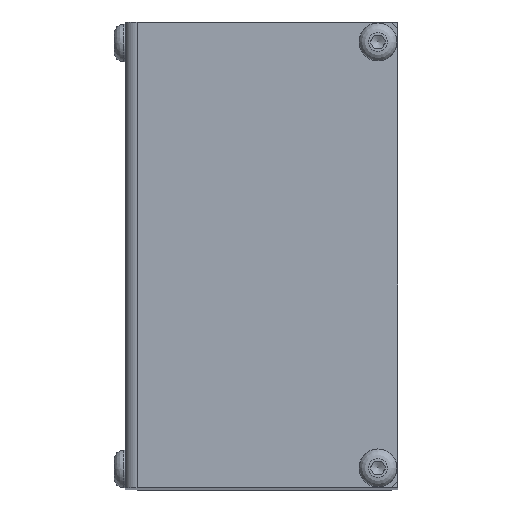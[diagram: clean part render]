
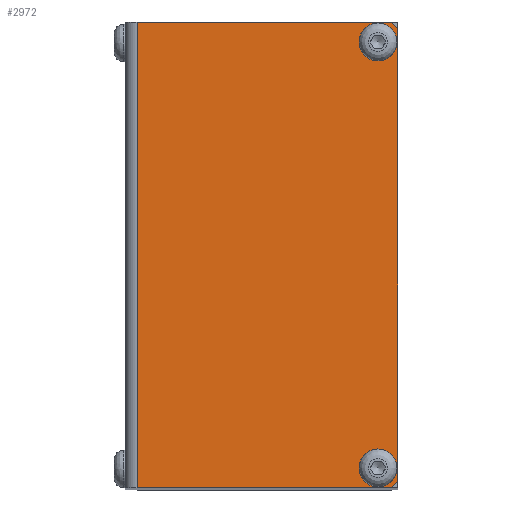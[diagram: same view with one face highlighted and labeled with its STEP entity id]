
A CAD part, top view. The second image highlights one B-rep face of the part: STEP entity #2972.
In plain terms, the highlighted planar face has unit normal (0, 0, 1).
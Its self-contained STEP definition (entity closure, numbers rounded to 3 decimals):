
#126=LINE('',#4815,#312);
#129=LINE('',#4821,#315);
#136=LINE('',#4833,#322);
#155=LINE('',#4866,#341);
#157=LINE('',#4869,#343);
#159=LINE('',#4878,#345);
#312=VECTOR('',#3878,1.414);
#315=VECTOR('',#3883,1.414);
#322=VECTOR('',#3894,38.2);
#341=VECTOR('',#3919,38.2);
#343=VECTOR('',#3923,70.);
#345=VECTOR('',#3939,68.);
#546=PLANE('',#3263);
#621=FACE_BOUND('',#1026,.T.);
#622=FACE_BOUND('',#1027,.T.);
#794=FACE_OUTER_BOUND('',#1025,.T.);
#1025=EDGE_LOOP('',(#2332,#2333,#2334,#2335,#2336,#2337));
#1026=EDGE_LOOP('',(#2338));
#1027=EDGE_LOOP('',(#2339));
#1166=CIRCLE('',#3110,2.85);
#1225=CIRCLE('',#3264,2.85);
#1302=VERTEX_POINT('',#4317);
#1437=VERTEX_POINT('',#4813);
#1438=VERTEX_POINT('',#4814);
#1439=VERTEX_POINT('',#4819);
#1440=VERTEX_POINT('',#4820);
#1443=VERTEX_POINT('',#4832);
#1454=VERTEX_POINT('',#4864);
#1455=VERTEX_POINT('',#4879);
#1565=EDGE_CURVE('',#1302,#1302,#1166,.T.);
#1747=EDGE_CURVE('',#1437,#1438,#126,.T.);
#1750=EDGE_CURVE('',#1439,#1440,#129,.T.);
#1757=EDGE_CURVE('',#1438,#1443,#136,.T.);
#1776=EDGE_CURVE('',#1454,#1439,#155,.T.);
#1778=EDGE_CURVE('',#1454,#1443,#157,.T.);
#1784=EDGE_CURVE('',#1440,#1437,#159,.T.);
#1785=EDGE_CURVE('',#1455,#1455,#1225,.T.);
#2332=ORIENTED_EDGE('',*,*,#1747,.F.);
#2333=ORIENTED_EDGE('',*,*,#1784,.F.);
#2334=ORIENTED_EDGE('',*,*,#1750,.F.);
#2335=ORIENTED_EDGE('',*,*,#1776,.F.);
#2336=ORIENTED_EDGE('',*,*,#1778,.T.);
#2337=ORIENTED_EDGE('',*,*,#1757,.F.);
#2338=ORIENTED_EDGE('',*,*,#1785,.T.);
#2339=ORIENTED_EDGE('',*,*,#1565,.T.);
#2972=ADVANCED_FACE('',(#794,#621,#622),#546,.T.);
#3110=AXIS2_PLACEMENT_3D('',#4318,#3491,#3492);
#3263=AXIS2_PLACEMENT_3D('',#4877,#3937,#3938);
#3264=AXIS2_PLACEMENT_3D('',#4880,#3940,#3941);
#3491=DIRECTION('center_axis',(0.,0.,
-1.));
#3492=DIRECTION('ref_axis',(0.,1.,0.));
#3878=DIRECTION('',(-0.707,-0.707,0.));
#3883=DIRECTION('',(0.707,-0.707,0.));
#3894=DIRECTION('',(-1.,0.,0.));
#3919=DIRECTION('',(1.,0.,0.));
#3923=DIRECTION('',(0.,-1.,0.));
#3937=DIRECTION('center_axis',(0.,0.,
1.));
#3938=DIRECTION('ref_axis',(1.,0.,0.));
#3939=DIRECTION('',(0.,-1.,0.));
#3940=DIRECTION('center_axis',(0.,0.,
-1.));
#3941=DIRECTION('ref_axis',(0.,1.,0.));
#4317=CARTESIAN_POINT('',(38.,5.85,179.));
#4318=CARTESIAN_POINT('Origin',(38.,3.,179.));
#4813=CARTESIAN_POINT('',(41.,1.,179.));
#4814=CARTESIAN_POINT('',(40.,0.,179.));
#4815=CARTESIAN_POINT('',(44.159,4.159,179.));
#4819=CARTESIAN_POINT('',(40.,70.,179.));
#4820=CARTESIAN_POINT('',(41.,69.,179.));
#4821=CARTESIAN_POINT('',(44.159,65.841,179.));
#4832=CARTESIAN_POINT('',(1.8,0.,179.));
#4833=CARTESIAN_POINT('',(-1.259,0.,179.));
#4864=CARTESIAN_POINT('',(1.8,70.,179.));
#4866=CARTESIAN_POINT('',(1.8,70.,179.));
#4869=CARTESIAN_POINT('',(1.8,35.,179.));
#4877=CARTESIAN_POINT('Origin',(20.635,35.,179.));
#4878=CARTESIAN_POINT('',(41.,70.,179.));
#4879=CARTESIAN_POINT('',(38.,69.85,179.));
#4880=CARTESIAN_POINT('Origin',(38.,67.,179.));
